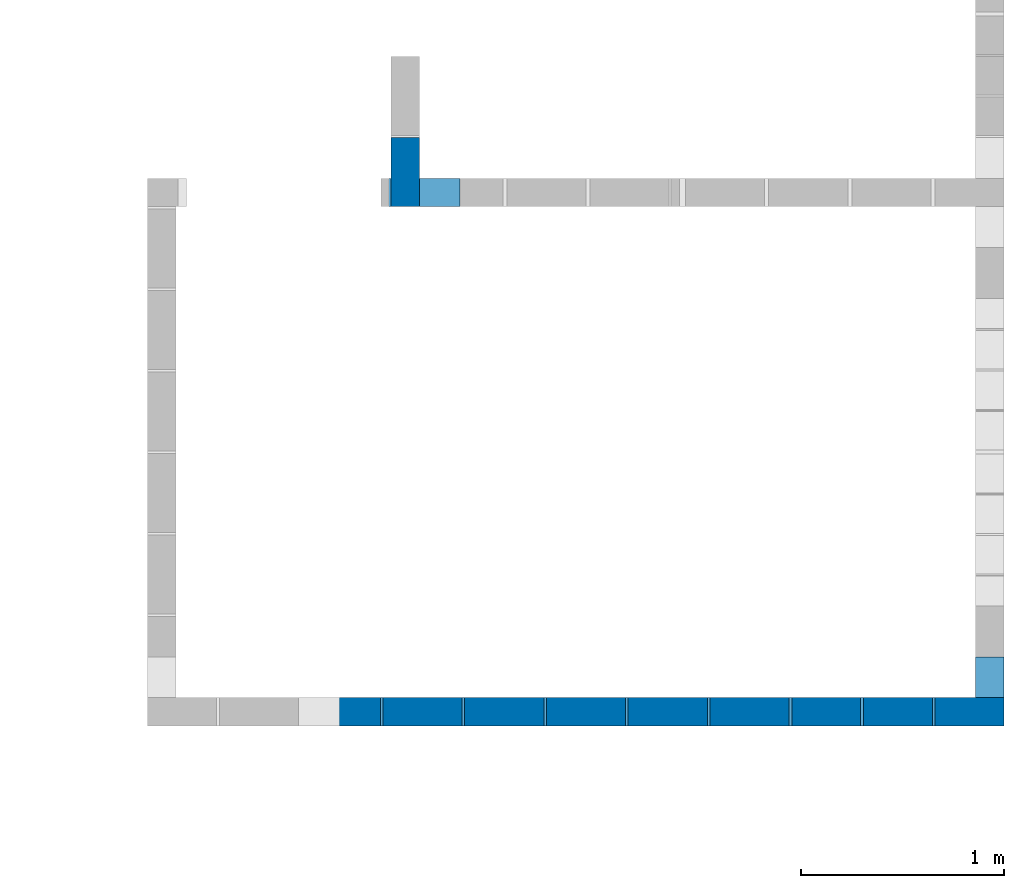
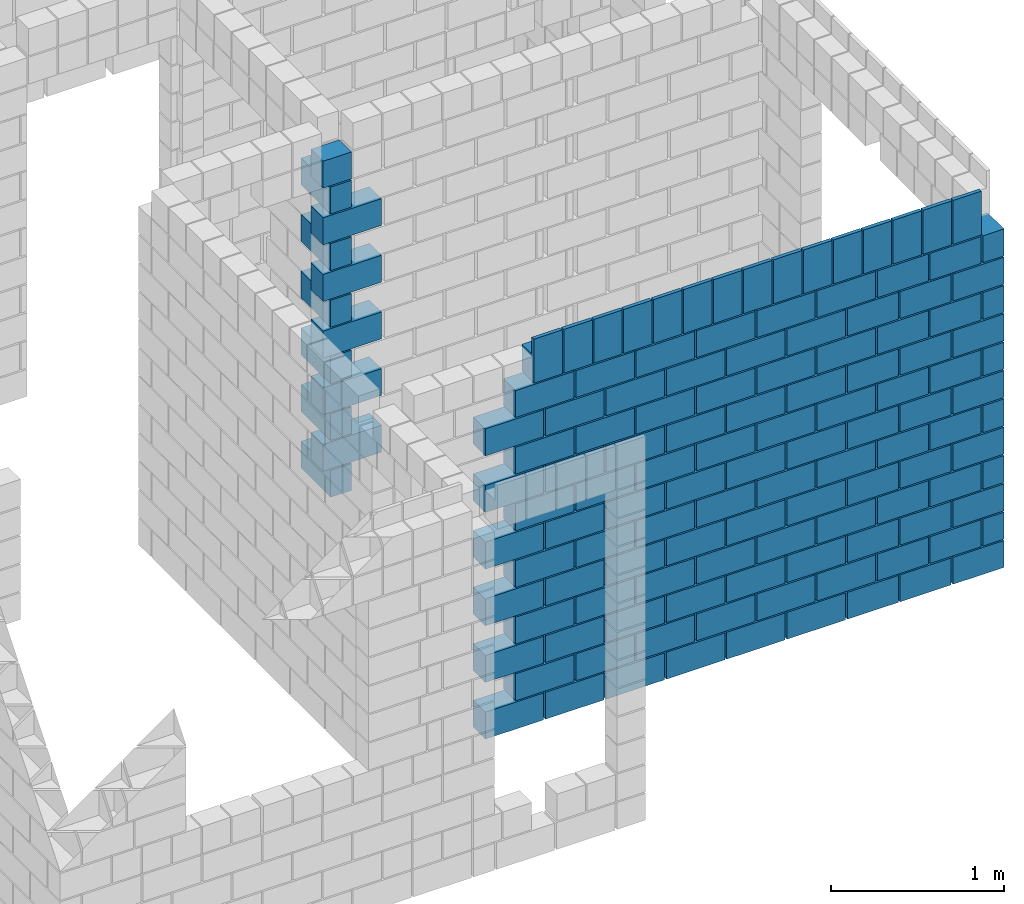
# One storey, part 5 of 12: 3 walls.
"""IFC4 building model written with IfcOpenShell, lengths in centimetres."""

from ifc_helpers import new_model, si_unit, derived_unit, frame, origin, origin_with_axes, origin_2d_with_axis, place, context, project, spatial, rectangle, extrude, element, save


model = new_model("IFC4")

# Units and contexts
model_context = context("Model", 3, precision=1e-05, world=origin_with_axes(), identifier="Body")
ifc_project = project(units=[si_unit("LENGTHUNIT", "METRE", prefix="CENTI"), si_unit("VOLUMEUNIT", "CUBIC_METRE"), si_unit("AREAUNIT", "SQUARE_METRE"), si_unit("POWERUNIT", "WATT"), si_unit("LUMINOUSFLUXUNIT", "LUMEN"), si_unit("ELECTRICCURRENTUNIT", "AMPERE"), si_unit("PRESSUREUNIT", "PASCAL", prefix="KILO"), si_unit("MASSUNIT", "GRAM", prefix="KILO"), si_unit("PLANEANGLEUNIT", "RADIAN"), derived_unit("VOLUMETRICFLOWRATEUNIT", [(si_unit("LENGTHUNIT", "METRE"), 3), (si_unit("TIMEUNIT", "SECOND"), -1)])], contexts=[model_context])

# Site, building, storey
site_placement = place(None, origin_with_axes())
site = spatial("IfcSite", under=ifc_project, at=site_placement)
building_placement = place(site_placement, origin())
building = spatial("IfcBuilding", under=site, at=building_placement)
storey_placement = place(building_placement, origin_with_axes())
storey = spatial("IfcBuildingStorey", under=building, at=storey_placement, Name="PISO", CompositionType="ELEMENT", Elevation=0.0)

# Walls
wall_1_placement = place(storey_placement, frame((682.01, 135.0, 239.0), z_axis=(0.0, 0.0, 1.0), x_axis=(1.0, 0.0, 0.0)))
element("IfcWall", 1, at=wall_1_placement, inside=storey, context=model_context, shape_type="SolidModel", body=[
    extrude(rectangle(XDim=34.0, YDim=14.0, at=origin_2d_with_axis()), frame((0.0, -10.0, -239.0), z_axis=(0.0, 0.0, 1.0), x_axis=(-1.0, 0.0, 0.0)), (0.0, 0.0, 1.0), 19.0),
    extrude(rectangle(XDim=34.0, YDim=14.0, at=origin_2d_with_axis()), frame((10.0, 0.0, -219.0), z_axis=(0.0, 0.0, 1.0), x_axis=(0.0, 1.0, 0.0)), (0.0, 0.0, 1.0), 19.0),
    extrude(rectangle(XDim=34.0, YDim=14.0, at=origin_2d_with_axis()), frame((0.0, -10.0, -199.0), z_axis=(0.0, 0.0, 1.0), x_axis=(-1.0, 0.0, 0.0)), (0.0, 0.0, 1.0), 19.0),
    extrude(rectangle(XDim=34.0, YDim=14.0, at=origin_2d_with_axis()), frame((10.0, 0.0, -179.0), z_axis=(0.0, 0.0, 1.0), x_axis=(0.0, 1.0, 0.0)), (0.0, 0.0, 1.0), 19.0),
    extrude(rectangle(XDim=34.0, YDim=14.0, at=origin_2d_with_axis()), frame((0.0, -10.0, -159.0), z_axis=(0.0, 0.0, 1.0), x_axis=(-1.0, 0.0, 0.0)), (0.0, 0.0, 1.0), 19.0),
    extrude(rectangle(XDim=34.0, YDim=14.0, at=origin_2d_with_axis()), frame((10.0, 0.0, -139.0), z_axis=(0.0, 0.0, 1.0), x_axis=(0.0, 1.0, 0.0)), (0.0, 0.0, 1.0), 19.0),
    extrude(rectangle(XDim=34.0, YDim=14.0, at=origin_2d_with_axis()), frame((0.0, -10.0, -119.0), z_axis=(0.0, 0.0, 1.0), x_axis=(-1.0, 0.0, 0.0)), (0.0, 0.0, 1.0), 19.0),
    extrude(rectangle(XDim=34.0, YDim=14.0, at=origin_2d_with_axis()), frame((10.0, 0.0, -99.0), z_axis=(0.0, 0.0, 1.0), x_axis=(0.0, 1.0, 0.0)), (0.0, 0.0, 1.0), 19.0),
    extrude(rectangle(XDim=34.0, YDim=14.0, at=origin_2d_with_axis()), frame((0.0, -10.0, -79.0), z_axis=(0.0, 0.0, 1.0), x_axis=(-1.0, 0.0, 0.0)), (0.0, 0.0, 1.0), 19.0),
    extrude(rectangle(XDim=34.0, YDim=14.0, at=origin_2d_with_axis()), frame((10.0, 0.0, -59.0), z_axis=(0.0, 0.0, 1.0), x_axis=(0.0, 1.0, 0.0)), (0.0, 0.0, 1.0), 19.0),
    extrude(rectangle(XDim=34.0, YDim=14.0, at=origin_2d_with_axis()), frame((0.0, -10.0, -39.0), z_axis=(0.0, 0.0, 1.0), x_axis=(-1.0, 0.0, 0.0)), (0.0, 0.0, 1.0), 19.0),
    extrude(rectangle(XDim=19.0, YDim=14.0, at=origin_2d_with_axis()), frame((10.0, -7.5, -19.0), z_axis=(0.0, 0.0, 1.0), x_axis=(0.0, 1.0, 0.0)), (0.0, 0.0, 1.0), 19.0),
])
wall_2_placement = place(storey_placement, frame((411.51, 391.01, 239.0), z_axis=(0.0, 0.0, 1.0), x_axis=(1.0, 0.0, 0.0)))
element("IfcWall", 2, at=wall_2_placement, inside=storey, context=model_context, shape_type="SolidModel", body=[
    extrude(rectangle(XDim=34.0, YDim=14.0, at=origin_2d_with_axis()), frame((-7.5, 0.0, -239.0), z_axis=(0.0, 0.0, 1.0), x_axis=(0.0, 1.0, 0.0)), (0.0, 0.0, 1.0), 19.0),
    extrude(rectangle(XDim=39.0, YDim=14.0, at=origin_2d_with_axis()), frame((0.0, -10.0, -219.0), z_axis=(0.0, 0.0, 1.0), x_axis=(-1.0, 0.0, 0.0)), (0.0, 0.0, 1.0), 19.0),
    extrude(rectangle(XDim=34.0, YDim=14.0, at=origin_2d_with_axis()), frame((-7.5, 0.0, -199.0), z_axis=(0.0, 0.0, 1.0), x_axis=(0.0, 1.0, 0.0)), (0.0, 0.0, 1.0), 19.0),
    extrude(rectangle(XDim=39.0, YDim=14.0, at=origin_2d_with_axis()), frame((0.0, -10.0, -179.0), z_axis=(0.0, 0.0, 1.0), x_axis=(-1.0, 0.0, 0.0)), (0.0, 0.0, 1.0), 19.0),
    extrude(rectangle(XDim=34.0, YDim=14.0, at=origin_2d_with_axis()), frame((-7.5, 0.0, -159.0), z_axis=(0.0, 0.0, 1.0), x_axis=(0.0, 1.0, 0.0)), (0.0, 0.0, 1.0), 19.0),
    extrude(rectangle(XDim=39.0, YDim=14.0, at=origin_2d_with_axis()), frame((0.0, -10.0, -139.0), z_axis=(0.0, 0.0, 1.0), x_axis=(-1.0, 0.0, 0.0)), (0.0, 0.0, 1.0), 19.0),
    extrude(rectangle(XDim=34.0, YDim=14.0, at=origin_2d_with_axis()), frame((-7.5, 0.0, -119.0), z_axis=(0.0, 0.0, 1.0), x_axis=(0.0, 1.0, 0.0)), (0.0, 0.0, 1.0), 19.0),
    extrude(rectangle(XDim=39.0, YDim=14.0, at=origin_2d_with_axis()), frame((0.0, -10.0, -99.0), z_axis=(0.0, 0.0, 1.0), x_axis=(-1.0, 0.0, 0.0)), (0.0, 0.0, 1.0), 19.0),
    extrude(rectangle(XDim=34.0, YDim=14.0, at=origin_2d_with_axis()), frame((-7.5, 0.0, -79.0), z_axis=(0.0, 0.0, 1.0), x_axis=(0.0, 1.0, 0.0)), (0.0, 0.0, 1.0), 19.0),
    extrude(rectangle(XDim=39.0, YDim=14.0, at=origin_2d_with_axis()), frame((0.0, -10.0, -59.0), z_axis=(0.0, 0.0, 1.0), x_axis=(-1.0, 0.0, 0.0)), (0.0, 0.0, 1.0), 19.0),
    extrude(rectangle(XDim=34.0, YDim=14.0, at=origin_2d_with_axis()), frame((-7.5, 0.0, -39.0), z_axis=(0.0, 0.0, 1.0), x_axis=(0.0, 1.0, 0.0)), (0.0, 0.0, 1.0), 19.0),
    extrude(rectangle(XDim=19.0, YDim=14.0, at=origin_2d_with_axis()), frame((-10.0, -10.0, -19.0), z_axis=(0.0, 0.0, 1.0), x_axis=(-1.0, 0.0, 0.0)), (0.0, 0.0, 1.0), 19.0),
])
wall_3_placement = place(storey_placement, frame((518.306, 125.0, 271.0), z_axis=(0.0, 0.0, 1.0), x_axis=(1.0, 0.0, 0.0)))
element("IfcWall", 3, at=wall_3_placement, inside=storey, Name="PAR-PISO-9", context=model_context, shape_type="SolidModel", body=[
    extrude(rectangle(XDim=34.0, YDim=14.0, at=origin_2d_with_axis()), frame((128.403, 0.0, -271.0), z_axis=(0.0, 0.0, 1.0), x_axis=(-1.0, 0.0, 0.0)), (0.0, 0.0, 1.0), 19.0),
    extrude(rectangle(XDim=34.0, YDim=14.0, at=origin_2d_with_axis()), frame((93.102, 0.0, -271.0), z_axis=(0.0, 0.0, 1.0), x_axis=(-1.0, 0.0, 0.0)), (0.0, 0.0, 1.0), 19.0),
    extrude(rectangle(XDim=39.0, YDim=14.0, at=origin_2d_with_axis()), frame((55.301, 0.0, -271.0), z_axis=(0.0, 0.0, 1.0), x_axis=(-1.0, 0.0, 0.0)), (0.0, 0.0, 1.0), 19.0),
    extrude(rectangle(XDim=39.0, YDim=14.0, at=origin_2d_with_axis()), frame((15.0, 0.0, -271.0), z_axis=(0.0, 0.0, 1.0), x_axis=(-1.0, 0.0, 0.0)), (0.0, 0.0, 1.0), 19.0),
    extrude(rectangle(XDim=39.0, YDim=14.0, at=origin_2d_with_axis()), frame((-25.301, 0.0, -271.0), z_axis=(0.0, 0.0, 1.0), x_axis=(-1.0, 0.0, 0.0)), (0.0, 0.0, 1.0), 19.0),
    extrude(rectangle(XDim=39.0, YDim=14.0, at=origin_2d_with_axis()), frame((-65.602, 0.0, -271.0), z_axis=(0.0, 0.0, 1.0), x_axis=(-1.0, 0.0, 0.0)), (0.0, 0.0, 1.0), 19.0),
    extrude(rectangle(XDim=39.0, YDim=14.0, at=origin_2d_with_axis()), frame((-105.903, 0.0, -271.0), z_axis=(0.0, 0.0, 1.0), x_axis=(-1.0, 0.0, 0.0)), (0.0, 0.0, 1.0), 19.0),
    extrude(rectangle(XDim=39.0, YDim=14.0, at=origin_2d_with_axis()), frame((-146.204, 0.0, -271.0), z_axis=(0.0, 0.0, 1.0), x_axis=(-1.0, 0.0, 0.0)), (0.0, 0.0, 1.0), 19.0),
    extrude(rectangle(XDim=34.0, YDim=14.0, at=origin_2d_with_axis()), frame((148.4303636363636, 0.0, -251.0), z_axis=(0.0, 0.0, 1.0), x_axis=(-1.0, 0.0, 0.0)), (0.0, 0.0, 1.0), 19.0),
    extrude(rectangle(XDim=34.0, YDim=14.0, at=origin_2d_with_axis()), frame((113.15672727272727, 0.0, -251.0), z_axis=(0.0, 0.0, 1.0), x_axis=(-1.0, 0.0, 0.0)), (0.0, 0.0, 1.0), 19.0),
    extrude(rectangle(XDim=39.0, YDim=14.0, at=origin_2d_with_axis()), frame((75.38309090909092, 0.0, -251.0), z_axis=(0.0, 0.0, 1.0), x_axis=(-1.0, 0.0, 0.0)), (0.0, 0.0, 1.0), 19.0),
    extrude(rectangle(XDim=39.0, YDim=14.0, at=origin_2d_with_axis()), frame((35.10945454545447, 0.0, -251.0), z_axis=(0.0, 0.0, 1.0), x_axis=(-1.0, 0.0, 0.0)), (0.0, 0.0, 1.0), 19.0),
    extrude(rectangle(XDim=39.0, YDim=14.0, at=origin_2d_with_axis()), frame((-5.164181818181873, 0.0, -251.0), z_axis=(0.0, 0.0, 1.0), x_axis=(-1.0, 0.0, 0.0)), (0.0, 0.0, 1.0), 19.0),
    extrude(rectangle(XDim=39.0, YDim=14.0, at=origin_2d_with_axis()), frame((-45.437818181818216, 0.0, -251.0), z_axis=(0.0, 0.0, 1.0), x_axis=(-1.0, 0.0, 0.0)), (0.0, 0.0, 1.0), 19.0),
    extrude(rectangle(XDim=39.0, YDim=14.0, at=origin_2d_with_axis()), frame((-85.71145454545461, 0.0, -251.0), z_axis=(0.0, 0.0, 1.0), x_axis=(-1.0, 0.0, 0.0)), (0.0, 0.0, 1.0), 19.0),
    extrude(rectangle(XDim=39.0, YDim=14.0, at=origin_2d_with_axis()), frame((-125.98509090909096, 0.0, -251.0), z_axis=(0.0, 0.0, 1.0), x_axis=(-1.0, 0.0, 0.0)), (0.0, 0.0, 1.0), 19.0),
    extrude(rectangle(XDim=34.0, YDim=14.0, at=origin_2d_with_axis()), frame((128.403, 0.0, -231.0), z_axis=(0.0, 0.0, 1.0), x_axis=(-1.0, 0.0, 0.0)), (0.0, 0.0, 1.0), 19.0),
    extrude(rectangle(XDim=34.0, YDim=14.0, at=origin_2d_with_axis()), frame((93.102, 0.0, -231.0), z_axis=(0.0, 0.0, 1.0), x_axis=(-1.0, 0.0, 0.0)), (0.0, 0.0, 1.0), 19.0),
    extrude(rectangle(XDim=39.0, YDim=14.0, at=origin_2d_with_axis()), frame((55.301, 0.0, -231.0), z_axis=(0.0, 0.0, 1.0), x_axis=(-1.0, 0.0, 0.0)), (0.0, 0.0, 1.0), 19.0),
    extrude(rectangle(XDim=39.0, YDim=14.0, at=origin_2d_with_axis()), frame((15.0, 0.0, -231.0), z_axis=(0.0, 0.0, 1.0), x_axis=(-1.0, 0.0, 0.0)), (0.0, 0.0, 1.0), 19.0),
    extrude(rectangle(XDim=39.0, YDim=14.0, at=origin_2d_with_axis()), frame((-25.301, 0.0, -231.0), z_axis=(0.0, 0.0, 1.0), x_axis=(-1.0, 0.0, 0.0)), (0.0, 0.0, 1.0), 19.0),
    extrude(rectangle(XDim=39.0, YDim=14.0, at=origin_2d_with_axis()), frame((-65.602, 0.0, -231.0), z_axis=(0.0, 0.0, 1.0), x_axis=(-1.0, 0.0, 0.0)), (0.0, 0.0, 1.0), 19.0),
    extrude(rectangle(XDim=39.0, YDim=14.0, at=origin_2d_with_axis()), frame((-105.903, 0.0, -231.0), z_axis=(0.0, 0.0, 1.0), x_axis=(-1.0, 0.0, 0.0)), (0.0, 0.0, 1.0), 19.0),
    extrude(rectangle(XDim=39.0, YDim=14.0, at=origin_2d_with_axis()), frame((-146.204, 0.0, -231.0), z_axis=(0.0, 0.0, 1.0), x_axis=(-1.0, 0.0, 0.0)), (0.0, 0.0, 1.0), 19.0),
    extrude(rectangle(XDim=34.0, YDim=14.0, at=origin_2d_with_axis()), frame((148.4303636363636, 0.0, -211.0), z_axis=(0.0, 0.0, 1.0), x_axis=(-1.0, 0.0, 0.0)), (0.0, 0.0, 1.0), 19.0),
    extrude(rectangle(XDim=34.0, YDim=14.0, at=origin_2d_with_axis()), frame((113.15672727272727, 0.0, -211.0), z_axis=(0.0, 0.0, 1.0), x_axis=(-1.0, 0.0, 0.0)), (0.0, 0.0, 1.0), 19.0),
    extrude(rectangle(XDim=39.0, YDim=14.0, at=origin_2d_with_axis()), frame((75.38309090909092, 0.0, -211.0), z_axis=(0.0, 0.0, 1.0), x_axis=(-1.0, 0.0, 0.0)), (0.0, 0.0, 1.0), 19.0),
    extrude(rectangle(XDim=39.0, YDim=14.0, at=origin_2d_with_axis()), frame((35.10945454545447, 0.0, -211.0), z_axis=(0.0, 0.0, 1.0), x_axis=(-1.0, 0.0, 0.0)), (0.0, 0.0, 1.0), 19.0),
    extrude(rectangle(XDim=39.0, YDim=14.0, at=origin_2d_with_axis()), frame((-5.164181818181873, 0.0, -211.0), z_axis=(0.0, 0.0, 1.0), x_axis=(-1.0, 0.0, 0.0)), (0.0, 0.0, 1.0), 19.0),
    extrude(rectangle(XDim=39.0, YDim=14.0, at=origin_2d_with_axis()), frame((-45.437818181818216, 0.0, -211.0), z_axis=(0.0, 0.0, 1.0), x_axis=(-1.0, 0.0, 0.0)), (0.0, 0.0, 1.0), 19.0),
    extrude(rectangle(XDim=39.0, YDim=14.0, at=origin_2d_with_axis()), frame((-85.71145454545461, 0.0, -211.0), z_axis=(0.0, 0.0, 1.0), x_axis=(-1.0, 0.0, 0.0)), (0.0, 0.0, 1.0), 19.0),
    extrude(rectangle(XDim=39.0, YDim=14.0, at=origin_2d_with_axis()), frame((-125.98509090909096, 0.0, -211.0), z_axis=(0.0, 0.0, 1.0), x_axis=(-1.0, 0.0, 0.0)), (0.0, 0.0, 1.0), 19.0),
    extrude(rectangle(XDim=34.0, YDim=14.0, at=origin_2d_with_axis()), frame((128.403, 0.0, -191.0), z_axis=(0.0, 0.0, 1.0), x_axis=(-1.0, 0.0, 0.0)), (0.0, 0.0, 1.0), 19.0),
    extrude(rectangle(XDim=34.0, YDim=14.0, at=origin_2d_with_axis()), frame((93.102, 0.0, -191.0), z_axis=(0.0, 0.0, 1.0), x_axis=(-1.0, 0.0, 0.0)), (0.0, 0.0, 1.0), 19.0),
    extrude(rectangle(XDim=39.0, YDim=14.0, at=origin_2d_with_axis()), frame((55.301, 0.0, -191.0), z_axis=(0.0, 0.0, 1.0), x_axis=(-1.0, 0.0, 0.0)), (0.0, 0.0, 1.0), 19.0),
    extrude(rectangle(XDim=39.0, YDim=14.0, at=origin_2d_with_axis()), frame((15.0, 0.0, -191.0), z_axis=(0.0, 0.0, 1.0), x_axis=(-1.0, 0.0, 0.0)), (0.0, 0.0, 1.0), 19.0),
    extrude(rectangle(XDim=39.0, YDim=14.0, at=origin_2d_with_axis()), frame((-25.301, 0.0, -191.0), z_axis=(0.0, 0.0, 1.0), x_axis=(-1.0, 0.0, 0.0)), (0.0, 0.0, 1.0), 19.0),
    extrude(rectangle(XDim=39.0, YDim=14.0, at=origin_2d_with_axis()), frame((-65.602, 0.0, -191.0), z_axis=(0.0, 0.0, 1.0), x_axis=(-1.0, 0.0, 0.0)), (0.0, 0.0, 1.0), 19.0),
    extrude(rectangle(XDim=39.0, YDim=14.0, at=origin_2d_with_axis()), frame((-105.903, 0.0, -191.0), z_axis=(0.0, 0.0, 1.0), x_axis=(-1.0, 0.0, 0.0)), (0.0, 0.0, 1.0), 19.0),
    extrude(rectangle(XDim=39.0, YDim=14.0, at=origin_2d_with_axis()), frame((-146.204, 0.0, -191.0), z_axis=(0.0, 0.0, 1.0), x_axis=(-1.0, 0.0, 0.0)), (0.0, 0.0, 1.0), 19.0),
    extrude(rectangle(XDim=34.0, YDim=14.0, at=origin_2d_with_axis()), frame((148.4303636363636, 0.0, -171.0), z_axis=(0.0, 0.0, 1.0), x_axis=(-1.0, 0.0, 0.0)), (0.0, 0.0, 1.0), 19.0),
    extrude(rectangle(XDim=34.0, YDim=14.0, at=origin_2d_with_axis()), frame((113.15672727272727, 0.0, -171.0), z_axis=(0.0, 0.0, 1.0), x_axis=(-1.0, 0.0, 0.0)), (0.0, 0.0, 1.0), 19.0),
    extrude(rectangle(XDim=39.0, YDim=14.0, at=origin_2d_with_axis()), frame((75.38309090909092, 0.0, -171.0), z_axis=(0.0, 0.0, 1.0), x_axis=(-1.0, 0.0, 0.0)), (0.0, 0.0, 1.0), 19.0),
    extrude(rectangle(XDim=39.0, YDim=14.0, at=origin_2d_with_axis()), frame((35.10945454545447, 0.0, -171.0), z_axis=(0.0, 0.0, 1.0), x_axis=(-1.0, 0.0, 0.0)), (0.0, 0.0, 1.0), 19.0),
    extrude(rectangle(XDim=39.0, YDim=14.0, at=origin_2d_with_axis()), frame((-5.164181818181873, 0.0, -171.0), z_axis=(0.0, 0.0, 1.0), x_axis=(-1.0, 0.0, 0.0)), (0.0, 0.0, 1.0), 19.0),
    extrude(rectangle(XDim=39.0, YDim=14.0, at=origin_2d_with_axis()), frame((-45.437818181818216, 0.0, -171.0), z_axis=(0.0, 0.0, 1.0), x_axis=(-1.0, 0.0, 0.0)), (0.0, 0.0, 1.0), 19.0),
    extrude(rectangle(XDim=39.0, YDim=14.0, at=origin_2d_with_axis()), frame((-85.71145454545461, 0.0, -171.0), z_axis=(0.0, 0.0, 1.0), x_axis=(-1.0, 0.0, 0.0)), (0.0, 0.0, 1.0), 19.0),
    extrude(rectangle(XDim=39.0, YDim=14.0, at=origin_2d_with_axis()), frame((-125.98509090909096, 0.0, -171.0), z_axis=(0.0, 0.0, 1.0), x_axis=(-1.0, 0.0, 0.0)), (0.0, 0.0, 1.0), 19.0),
    extrude(rectangle(XDim=34.0, YDim=14.0, at=origin_2d_with_axis()), frame((128.403, 0.0, -151.0), z_axis=(0.0, 0.0, 1.0), x_axis=(-1.0, 0.0, 0.0)), (0.0, 0.0, 1.0), 19.0),
    extrude(rectangle(XDim=34.0, YDim=14.0, at=origin_2d_with_axis()), frame((93.102, 0.0, -151.0), z_axis=(0.0, 0.0, 1.0), x_axis=(-1.0, 0.0, 0.0)), (0.0, 0.0, 1.0), 19.0),
    extrude(rectangle(XDim=39.0, YDim=14.0, at=origin_2d_with_axis()), frame((55.301, 0.0, -151.0), z_axis=(0.0, 0.0, 1.0), x_axis=(-1.0, 0.0, 0.0)), (0.0, 0.0, 1.0), 19.0),
    extrude(rectangle(XDim=39.0, YDim=14.0, at=origin_2d_with_axis()), frame((15.0, 0.0, -151.0), z_axis=(0.0, 0.0, 1.0), x_axis=(-1.0, 0.0, 0.0)), (0.0, 0.0, 1.0), 19.0),
    extrude(rectangle(XDim=39.0, YDim=14.0, at=origin_2d_with_axis()), frame((-25.301, 0.0, -151.0), z_axis=(0.0, 0.0, 1.0), x_axis=(-1.0, 0.0, 0.0)), (0.0, 0.0, 1.0), 19.0),
    extrude(rectangle(XDim=39.0, YDim=14.0, at=origin_2d_with_axis()), frame((-65.602, 0.0, -151.0), z_axis=(0.0, 0.0, 1.0), x_axis=(-1.0, 0.0, 0.0)), (0.0, 0.0, 1.0), 19.0),
    extrude(rectangle(XDim=39.0, YDim=14.0, at=origin_2d_with_axis()), frame((-105.903, 0.0, -151.0), z_axis=(0.0, 0.0, 1.0), x_axis=(-1.0, 0.0, 0.0)), (0.0, 0.0, 1.0), 19.0),
    extrude(rectangle(XDim=39.0, YDim=14.0, at=origin_2d_with_axis()), frame((-146.204, 0.0, -151.0), z_axis=(0.0, 0.0, 1.0), x_axis=(-1.0, 0.0, 0.0)), (0.0, 0.0, 1.0), 19.0),
    extrude(rectangle(XDim=34.0, YDim=14.0, at=origin_2d_with_axis()), frame((148.4303636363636, 0.0, -131.0), z_axis=(0.0, 0.0, 1.0), x_axis=(-1.0, 0.0, 0.0)), (0.0, 0.0, 1.0), 19.0),
    extrude(rectangle(XDim=34.0, YDim=14.0, at=origin_2d_with_axis()), frame((113.15672727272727, 0.0, -131.0), z_axis=(0.0, 0.0, 1.0), x_axis=(-1.0, 0.0, 0.0)), (0.0, 0.0, 1.0), 19.0),
    extrude(rectangle(XDim=39.0, YDim=14.0, at=origin_2d_with_axis()), frame((75.38309090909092, 0.0, -131.0), z_axis=(0.0, 0.0, 1.0), x_axis=(-1.0, 0.0, 0.0)), (0.0, 0.0, 1.0), 19.0),
    extrude(rectangle(XDim=39.0, YDim=14.0, at=origin_2d_with_axis()), frame((35.10945454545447, 0.0, -131.0), z_axis=(0.0, 0.0, 1.0), x_axis=(-1.0, 0.0, 0.0)), (0.0, 0.0, 1.0), 19.0),
    extrude(rectangle(XDim=39.0, YDim=14.0, at=origin_2d_with_axis()), frame((-5.164181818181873, 0.0, -131.0), z_axis=(0.0, 0.0, 1.0), x_axis=(-1.0, 0.0, 0.0)), (0.0, 0.0, 1.0), 19.0),
    extrude(rectangle(XDim=39.0, YDim=14.0, at=origin_2d_with_axis()), frame((-45.437818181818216, 0.0, -131.0), z_axis=(0.0, 0.0, 1.0), x_axis=(-1.0, 0.0, 0.0)), (0.0, 0.0, 1.0), 19.0),
    extrude(rectangle(XDim=39.0, YDim=14.0, at=origin_2d_with_axis()), frame((-85.71145454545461, 0.0, -131.0), z_axis=(0.0, 0.0, 1.0), x_axis=(-1.0, 0.0, 0.0)), (0.0, 0.0, 1.0), 19.0),
    extrude(rectangle(XDim=39.0, YDim=14.0, at=origin_2d_with_axis()), frame((-125.98509090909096, 0.0, -131.0), z_axis=(0.0, 0.0, 1.0), x_axis=(-1.0, 0.0, 0.0)), (0.0, 0.0, 1.0), 19.0),
    extrude(rectangle(XDim=34.0, YDim=14.0, at=origin_2d_with_axis()), frame((128.403, 0.0, -111.0), z_axis=(0.0, 0.0, 1.0), x_axis=(-1.0, 0.0, 0.0)), (0.0, 0.0, 1.0), 19.0),
    extrude(rectangle(XDim=34.0, YDim=14.0, at=origin_2d_with_axis()), frame((93.102, 0.0, -111.0), z_axis=(0.0, 0.0, 1.0), x_axis=(-1.0, 0.0, 0.0)), (0.0, 0.0, 1.0), 19.0),
    extrude(rectangle(XDim=39.0, YDim=14.0, at=origin_2d_with_axis()), frame((55.301, 0.0, -111.0), z_axis=(0.0, 0.0, 1.0), x_axis=(-1.0, 0.0, 0.0)), (0.0, 0.0, 1.0), 19.0),
    extrude(rectangle(XDim=39.0, YDim=14.0, at=origin_2d_with_axis()), frame((15.0, 0.0, -111.0), z_axis=(0.0, 0.0, 1.0), x_axis=(-1.0, 0.0, 0.0)), (0.0, 0.0, 1.0), 19.0),
    extrude(rectangle(XDim=39.0, YDim=14.0, at=origin_2d_with_axis()), frame((-25.301, 0.0, -111.0), z_axis=(0.0, 0.0, 1.0), x_axis=(-1.0, 0.0, 0.0)), (0.0, 0.0, 1.0), 19.0),
    extrude(rectangle(XDim=39.0, YDim=14.0, at=origin_2d_with_axis()), frame((-65.602, 0.0, -111.0), z_axis=(0.0, 0.0, 1.0), x_axis=(-1.0, 0.0, 0.0)), (0.0, 0.0, 1.0), 19.0),
    extrude(rectangle(XDim=39.0, YDim=14.0, at=origin_2d_with_axis()), frame((-105.903, 0.0, -111.0), z_axis=(0.0, 0.0, 1.0), x_axis=(-1.0, 0.0, 0.0)), (0.0, 0.0, 1.0), 19.0),
    extrude(rectangle(XDim=39.0, YDim=14.0, at=origin_2d_with_axis()), frame((-146.204, 0.0, -111.0), z_axis=(0.0, 0.0, 1.0), x_axis=(-1.0, 0.0, 0.0)), (0.0, 0.0, 1.0), 19.0),
    extrude(rectangle(XDim=34.0, YDim=14.0, at=origin_2d_with_axis()), frame((148.4303636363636, 0.0, -91.0), z_axis=(0.0, 0.0, 1.0), x_axis=(-1.0, 0.0, 0.0)), (0.0, 0.0, 1.0), 19.0),
    extrude(rectangle(XDim=34.0, YDim=14.0, at=origin_2d_with_axis()), frame((113.15672727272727, 0.0, -91.0), z_axis=(0.0, 0.0, 1.0), x_axis=(-1.0, 0.0, 0.0)), (0.0, 0.0, 1.0), 19.0),
    extrude(rectangle(XDim=39.0, YDim=14.0, at=origin_2d_with_axis()), frame((75.38309090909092, 0.0, -91.0), z_axis=(0.0, 0.0, 1.0), x_axis=(-1.0, 0.0, 0.0)), (0.0, 0.0, 1.0), 19.0),
    extrude(rectangle(XDim=39.0, YDim=14.0, at=origin_2d_with_axis()), frame((35.10945454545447, 0.0, -91.0), z_axis=(0.0, 0.0, 1.0), x_axis=(-1.0, 0.0, 0.0)), (0.0, 0.0, 1.0), 19.0),
    extrude(rectangle(XDim=39.0, YDim=14.0, at=origin_2d_with_axis()), frame((-5.164181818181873, 0.0, -91.0), z_axis=(0.0, 0.0, 1.0), x_axis=(-1.0, 0.0, 0.0)), (0.0, 0.0, 1.0), 19.0),
    extrude(rectangle(XDim=39.0, YDim=14.0, at=origin_2d_with_axis()), frame((-45.437818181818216, 0.0, -91.0), z_axis=(0.0, 0.0, 1.0), x_axis=(-1.0, 0.0, 0.0)), (0.0, 0.0, 1.0), 19.0),
    extrude(rectangle(XDim=39.0, YDim=14.0, at=origin_2d_with_axis()), frame((-85.71145454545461, 0.0, -91.0), z_axis=(0.0, 0.0, 1.0), x_axis=(-1.0, 0.0, 0.0)), (0.0, 0.0, 1.0), 19.0),
    extrude(rectangle(XDim=39.0, YDim=14.0, at=origin_2d_with_axis()), frame((-125.98509090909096, 0.0, -91.0), z_axis=(0.0, 0.0, 1.0), x_axis=(-1.0, 0.0, 0.0)), (0.0, 0.0, 1.0), 19.0),
    extrude(rectangle(XDim=34.0, YDim=14.0, at=origin_2d_with_axis()), frame((128.403, 0.0, -71.0), z_axis=(0.0, 0.0, 1.0), x_axis=(-1.0, 0.0, 0.0)), (0.0, 0.0, 1.0), 19.0),
    extrude(rectangle(XDim=34.0, YDim=14.0, at=origin_2d_with_axis()), frame((93.102, 0.0, -71.0), z_axis=(0.0, 0.0, 1.0), x_axis=(-1.0, 0.0, 0.0)), (0.0, 0.0, 1.0), 19.0),
    extrude(rectangle(XDim=39.0, YDim=14.0, at=origin_2d_with_axis()), frame((55.301, 0.0, -71.0), z_axis=(0.0, 0.0, 1.0), x_axis=(-1.0, 0.0, 0.0)), (0.0, 0.0, 1.0), 19.0),
    extrude(rectangle(XDim=39.0, YDim=14.0, at=origin_2d_with_axis()), frame((15.0, 0.0, -71.0), z_axis=(0.0, 0.0, 1.0), x_axis=(-1.0, 0.0, 0.0)), (0.0, 0.0, 1.0), 19.0),
    extrude(rectangle(XDim=39.0, YDim=14.0, at=origin_2d_with_axis()), frame((-25.301, 0.0, -71.0), z_axis=(0.0, 0.0, 1.0), x_axis=(-1.0, 0.0, 0.0)), (0.0, 0.0, 1.0), 19.0),
    extrude(rectangle(XDim=39.0, YDim=14.0, at=origin_2d_with_axis()), frame((-65.602, 0.0, -71.0), z_axis=(0.0, 0.0, 1.0), x_axis=(-1.0, 0.0, 0.0)), (0.0, 0.0, 1.0), 19.0),
    extrude(rectangle(XDim=39.0, YDim=14.0, at=origin_2d_with_axis()), frame((-105.903, 0.0, -71.0), z_axis=(0.0, 0.0, 1.0), x_axis=(-1.0, 0.0, 0.0)), (0.0, 0.0, 1.0), 19.0),
    extrude(rectangle(XDim=39.0, YDim=14.0, at=origin_2d_with_axis()), frame((-146.204, 0.0, -71.0), z_axis=(0.0, 0.0, 1.0), x_axis=(-1.0, 0.0, 0.0)), (0.0, 0.0, 1.0), 19.0),
    extrude(rectangle(XDim=34.0, YDim=14.0, at=origin_2d_with_axis()), frame((148.4303636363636, 0.0, -51.0), z_axis=(0.0, 0.0, 1.0), x_axis=(-1.0, 0.0, 0.0)), (0.0, 0.0, 1.0), 19.0),
    extrude(rectangle(XDim=34.0, YDim=14.0, at=origin_2d_with_axis()), frame((113.15672727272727, 0.0, -51.0), z_axis=(0.0, 0.0, 1.0), x_axis=(-1.0, 0.0, 0.0)), (0.0, 0.0, 1.0), 19.0),
    extrude(rectangle(XDim=39.0, YDim=14.0, at=origin_2d_with_axis()), frame((75.38309090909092, 0.0, -51.0), z_axis=(0.0, 0.0, 1.0), x_axis=(-1.0, 0.0, 0.0)), (0.0, 0.0, 1.0), 19.0),
    extrude(rectangle(XDim=39.0, YDim=14.0, at=origin_2d_with_axis()), frame((35.10945454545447, 0.0, -51.0), z_axis=(0.0, 0.0, 1.0), x_axis=(-1.0, 0.0, 0.0)), (0.0, 0.0, 1.0), 19.0),
    extrude(rectangle(XDim=39.0, YDim=14.0, at=origin_2d_with_axis()), frame((-5.164181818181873, 0.0, -51.0), z_axis=(0.0, 0.0, 1.0), x_axis=(-1.0, 0.0, 0.0)), (0.0, 0.0, 1.0), 19.0),
    extrude(rectangle(XDim=39.0, YDim=14.0, at=origin_2d_with_axis()), frame((-45.437818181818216, 0.0, -51.0), z_axis=(0.0, 0.0, 1.0), x_axis=(-1.0, 0.0, 0.0)), (0.0, 0.0, 1.0), 19.0),
    extrude(rectangle(XDim=39.0, YDim=14.0, at=origin_2d_with_axis()), frame((-85.71145454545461, 0.0, -51.0), z_axis=(0.0, 0.0, 1.0), x_axis=(-1.0, 0.0, 0.0)), (0.0, 0.0, 1.0), 19.0),
    extrude(rectangle(XDim=39.0, YDim=14.0, at=origin_2d_with_axis()), frame((-125.98509090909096, 0.0, -51.0), z_axis=(0.0, 0.0, 1.0), x_axis=(-1.0, 0.0, 0.0)), (0.0, 0.0, 1.0), 19.0),
    extrude(rectangle(XDim=19.0, YDim=2.5, at=origin_2d_with_axis()), frame((156.204, -5.75, -12.0), z_axis=(0.0, 0.0, 1.0), x_axis=(-1.0, 0.0, 0.0)), (0.0, 0.0, 1.0), 12.0),
    extrude(rectangle(XDim=19.0, YDim=14.0, at=origin_2d_with_axis()), frame((156.204, 0.0, -31.0), z_axis=(0.0, 0.0, 1.0), x_axis=(-1.0, 0.0, 0.0)), (0.0, 0.0, 1.0), 19.0),
    extrude(rectangle(XDim=19.0, YDim=2.5, at=origin_2d_with_axis()), frame((136.204, -5.75, -12.0), z_axis=(0.0, 0.0, 1.0), x_axis=(-1.0, 0.0, 0.0)), (0.0, 0.0, 1.0), 12.0),
    extrude(rectangle(XDim=19.0, YDim=14.0, at=origin_2d_with_axis()), frame((136.204, 0.0, -31.0), z_axis=(0.0, 0.0, 1.0), x_axis=(-1.0, 0.0, 0.0)), (0.0, 0.0, 1.0), 19.0),
    extrude(rectangle(XDim=19.0, YDim=2.5, at=origin_2d_with_axis()), frame((116.204, -5.75, -12.0), z_axis=(0.0, 0.0, 1.0), x_axis=(-1.0, 0.0, 0.0)), (0.0, 0.0, 1.0), 12.0),
    extrude(rectangle(XDim=19.0, YDim=14.0, at=origin_2d_with_axis()), frame((116.204, 0.0, -31.0), z_axis=(0.0, 0.0, 1.0), x_axis=(-1.0, 0.0, 0.0)), (0.0, 0.0, 1.0), 19.0),
    extrude(rectangle(XDim=19.0, YDim=2.5, at=origin_2d_with_axis()), frame((96.204, -5.75, -12.0), z_axis=(0.0, 0.0, 1.0), x_axis=(-1.0, 0.0, 0.0)), (0.0, 0.0, 1.0), 12.0),
    extrude(rectangle(XDim=19.0, YDim=14.0, at=origin_2d_with_axis()), frame((96.204, 0.0, -31.0), z_axis=(0.0, 0.0, 1.0), x_axis=(-1.0, 0.0, 0.0)), (0.0, 0.0, 1.0), 19.0),
    extrude(rectangle(XDim=19.0, YDim=2.5, at=origin_2d_with_axis()), frame((76.204, -5.75, -12.0), z_axis=(0.0, 0.0, 1.0), x_axis=(-1.0, 0.0, 0.0)), (0.0, 0.0, 1.0), 12.0),
    extrude(rectangle(XDim=19.0, YDim=14.0, at=origin_2d_with_axis()), frame((76.204, 0.0, -31.0), z_axis=(0.0, 0.0, 1.0), x_axis=(-1.0, 0.0, 0.0)), (0.0, 0.0, 1.0), 19.0),
    extrude(rectangle(XDim=19.0, YDim=2.5, at=origin_2d_with_axis()), frame((56.204, -5.75, -12.0), z_axis=(0.0, 0.0, 1.0), x_axis=(-1.0, 0.0, 0.0)), (0.0, 0.0, 1.0), 12.0),
    extrude(rectangle(XDim=19.0, YDim=14.0, at=origin_2d_with_axis()), frame((56.204, 0.0, -31.0), z_axis=(0.0, 0.0, 1.0), x_axis=(-1.0, 0.0, 0.0)), (0.0, 0.0, 1.0), 19.0),
    extrude(rectangle(XDim=19.0, YDim=2.5, at=origin_2d_with_axis()), frame((36.204, -5.75, -12.0), z_axis=(0.0, 0.0, 1.0), x_axis=(-1.0, 0.0, 0.0)), (0.0, 0.0, 1.0), 12.0),
    extrude(rectangle(XDim=19.0, YDim=14.0, at=origin_2d_with_axis()), frame((36.204, 0.0, -31.0), z_axis=(0.0, 0.0, 1.0), x_axis=(-1.0, 0.0, 0.0)), (0.0, 0.0, 1.0), 19.0),
    extrude(rectangle(XDim=19.0, YDim=2.5, at=origin_2d_with_axis()), frame((16.204, -5.75, -12.0), z_axis=(0.0, 0.0, 1.0), x_axis=(-1.0, 0.0, 0.0)), (0.0, 0.0, 1.0), 12.0),
    extrude(rectangle(XDim=19.0, YDim=14.0, at=origin_2d_with_axis()), frame((16.204, 0.0, -31.0), z_axis=(0.0, 0.0, 1.0), x_axis=(-1.0, 0.0, 0.0)), (0.0, 0.0, 1.0), 19.0),
    extrude(rectangle(XDim=19.0, YDim=2.5, at=origin_2d_with_axis()), frame((-3.796, -5.75, -12.0), z_axis=(0.0, 0.0, 1.0), x_axis=(-1.0, 0.0, 0.0)), (0.0, 0.0, 1.0), 12.0),
    extrude(rectangle(XDim=19.0, YDim=14.0, at=origin_2d_with_axis()), frame((-3.796, 0.0, -31.0), z_axis=(0.0, 0.0, 1.0), x_axis=(-1.0, 0.0, 0.0)), (0.0, 0.0, 1.0), 19.0),
    extrude(rectangle(XDim=19.0, YDim=2.5, at=origin_2d_with_axis()), frame((-23.796, -5.75, -12.0), z_axis=(0.0, 0.0, 1.0), x_axis=(-1.0, 0.0, 0.0)), (0.0, 0.0, 1.0), 12.0),
    extrude(rectangle(XDim=19.0, YDim=14.0, at=origin_2d_with_axis()), frame((-23.796, 0.0, -31.0), z_axis=(0.0, 0.0, 1.0), x_axis=(-1.0, 0.0, 0.0)), (0.0, 0.0, 1.0), 19.0),
    extrude(rectangle(XDim=19.0, YDim=2.5, at=origin_2d_with_axis()), frame((-43.796, -5.75, -12.0), z_axis=(0.0, 0.0, 1.0), x_axis=(-1.0, 0.0, 0.0)), (0.0, 0.0, 1.0), 12.0),
    extrude(rectangle(XDim=19.0, YDim=14.0, at=origin_2d_with_axis()), frame((-43.796, 0.0, -31.0), z_axis=(0.0, 0.0, 1.0), x_axis=(-1.0, 0.0, 0.0)), (0.0, 0.0, 1.0), 19.0),
    extrude(rectangle(XDim=19.0, YDim=2.5, at=origin_2d_with_axis()), frame((-63.796, -5.75, -12.0), z_axis=(0.0, 0.0, 1.0), x_axis=(-1.0, 0.0, 0.0)), (0.0, 0.0, 1.0), 12.0),
    extrude(rectangle(XDim=19.0, YDim=14.0, at=origin_2d_with_axis()), frame((-63.796, 0.0, -31.0), z_axis=(0.0, 0.0, 1.0), x_axis=(-1.0, 0.0, 0.0)), (0.0, 0.0, 1.0), 19.0),
    extrude(rectangle(XDim=19.0, YDim=2.5, at=origin_2d_with_axis()), frame((-83.796, -5.75, -12.0), z_axis=(0.0, 0.0, 1.0), x_axis=(-1.0, 0.0, 0.0)), (0.0, 0.0, 1.0), 12.0),
    extrude(rectangle(XDim=19.0, YDim=14.0, at=origin_2d_with_axis()), frame((-83.796, 0.0, -31.0), z_axis=(0.0, 0.0, 1.0), x_axis=(-1.0, 0.0, 0.0)), (0.0, 0.0, 1.0), 19.0),
    extrude(rectangle(XDim=19.0, YDim=2.5, at=origin_2d_with_axis()), frame((-103.796, -5.75, -12.0), z_axis=(0.0, 0.0, 1.0), x_axis=(-1.0, 0.0, 0.0)), (0.0, 0.0, 1.0), 12.0),
    extrude(rectangle(XDim=19.0, YDim=14.0, at=origin_2d_with_axis()), frame((-103.796, 0.0, -31.0), z_axis=(0.0, 0.0, 1.0), x_axis=(-1.0, 0.0, 0.0)), (0.0, 0.0, 1.0), 19.0),
    extrude(rectangle(XDim=19.0, YDim=2.5, at=origin_2d_with_axis()), frame((-123.796, -5.75, -12.0), z_axis=(0.0, 0.0, 1.0), x_axis=(-1.0, 0.0, 0.0)), (0.0, 0.0, 1.0), 12.0),
    extrude(rectangle(XDim=19.0, YDim=14.0, at=origin_2d_with_axis()), frame((-123.796, 0.0, -31.0), z_axis=(0.0, 0.0, 1.0), x_axis=(-1.0, 0.0, 0.0)), (0.0, 0.0, 1.0), 19.0),
])

save(model, "model.ifc")
